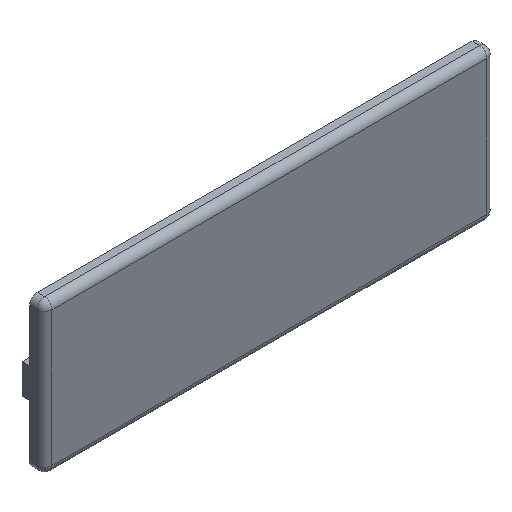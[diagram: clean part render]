
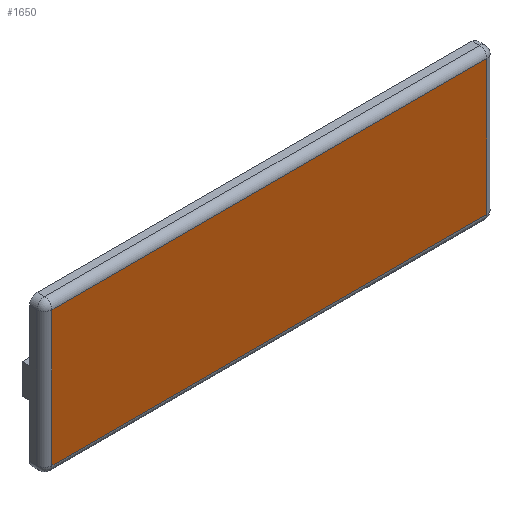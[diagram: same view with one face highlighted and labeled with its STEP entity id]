
A CAD part, isometric view. The second image highlights one B-rep face of the part: STEP entity #1650.
In plain terms, the highlighted planar face has unit normal (0, -1, 0).
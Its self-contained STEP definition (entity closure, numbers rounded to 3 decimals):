
#23 = FACE_OUTER_BOUND ( 'NONE', #713, .T. ) ;
#84 = CARTESIAN_POINT ( 'NONE',  ( -26.552, 0., 0. ) ) ;
#87 = DIRECTION ( 'NONE',  ( 1., 0., 0. ) ) ;
#95 = VECTOR ( 'NONE', #1169, 1000. ) ;
#316 = CARTESIAN_POINT ( 'NONE',  ( 89.448, 0., 0. ) ) ;
#390 = VERTEX_POINT ( 'NONE', #2157 ) ;
#393 = VERTEX_POINT ( 'NONE', #2418 ) ;
#418 = CARTESIAN_POINT ( 'NONE',  ( 0., 0., 25.812 ) ) ;
#491 = LINE ( 'NONE', #2505, #1589 ) ;
#528 = ORIENTED_EDGE ( 'NONE', *, *, #1438, .T. ) ;
#598 = LINE ( 'NONE', #316, #1908 ) ;
#666 = LINE ( 'NONE', #84, #95 ) ;
#713 = EDGE_LOOP ( 'NONE', ( #2430, #1840, #528, #1417 ) ) ;
#717 = CARTESIAN_POINT ( 'NONE',  ( 0., 0., 0. ) ) ;
#935 = DIRECTION ( 'NONE',  ( 0., 0., 1. ) ) ;
#1059 = VERTEX_POINT ( 'NONE', #2391 ) ;
#1144 = DIRECTION ( 'NONE',  ( 0., 1., 0. ) ) ;
#1169 = DIRECTION ( 'NONE',  ( 0., 0., -1. ) ) ;
#1301 = VERTEX_POINT ( 'NONE', #2077 ) ;
#1417 = ORIENTED_EDGE ( 'NONE', *, *, #1898, .T. ) ;
#1438 = EDGE_CURVE ( 'NONE', #390, #393, #666, .T. ) ;
#1470 = EDGE_CURVE ( 'NONE', #1301, #1059, #598, .T. ) ;
#1521 = VECTOR ( 'NONE', #1528, 1000. ) ;
#1528 = DIRECTION ( 'NONE',  ( -1., 0., 0. ) ) ;
#1589 = VECTOR ( 'NONE', #87, 1000. ) ;
#1650 = ADVANCED_FACE ( 'NONE', ( #23 ), #2037, .F. ) ;
#1719 = AXIS2_PLACEMENT_3D ( 'NONE', #717, #1144, #935 ) ;
#1840 = ORIENTED_EDGE ( 'NONE', *, *, #2608, .T. ) ;
#1850 = DIRECTION ( 'NONE',  ( 0., 0., 1. ) ) ;
#1898 = EDGE_CURVE ( 'NONE', #393, #1301, #491, .T. ) ;
#1908 = VECTOR ( 'NONE', #1850, 1000. ) ;
#2037 = PLANE ( 'NONE',  #1719 ) ;
#2077 = CARTESIAN_POINT ( 'NONE',  ( 89.448, 0., -10.188 ) ) ;
#2094 = LINE ( 'NONE', #418, #1521 ) ;
#2157 = CARTESIAN_POINT ( 'NONE',  ( -26.552, 0., 25.812 ) ) ;
#2391 = CARTESIAN_POINT ( 'NONE',  ( 89.448, 0., 25.812 ) ) ;
#2418 = CARTESIAN_POINT ( 'NONE',  ( -26.552, 0., -10.188 ) ) ;
#2430 = ORIENTED_EDGE ( 'NONE', *, *, #1470, .T. ) ;
#2505 = CARTESIAN_POINT ( 'NONE',  ( 0., 0., -10.188 ) ) ;
#2608 = EDGE_CURVE ( 'NONE', #1059, #390, #2094, .T. ) ;
